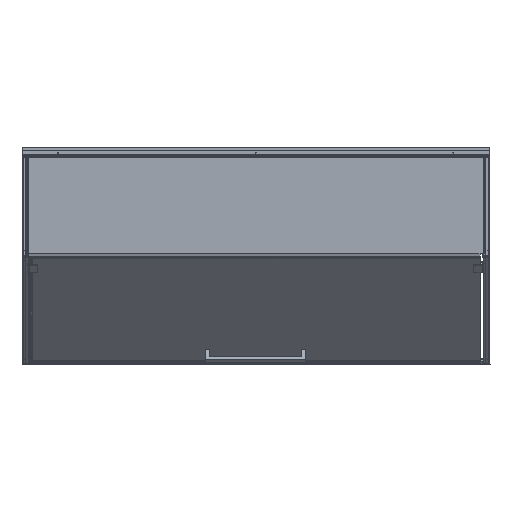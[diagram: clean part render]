
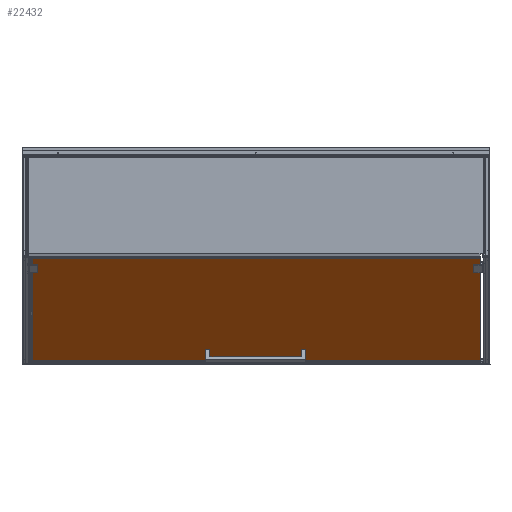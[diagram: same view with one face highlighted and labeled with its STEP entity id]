
A CAD part, front view. The second image highlights one B-rep face of the part: STEP entity #22432.
In plain terms, the highlighted planar face has unit normal (0, -0.707, -0.707) as drawn and (0, 1, 0) by its records, which use the part's own axes.
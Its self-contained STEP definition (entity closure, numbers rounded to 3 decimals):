
#22089=DIRECTION('',(0.,0.,1.));
#22090=VECTOR('',#22089,1876.);
#22091=CARTESIAN_POINT('',(-306.,8.,-938.));
#22092=LINE('',#22091,#22090);
#22093=DIRECTION('',(-1.,0.,0.));
#22094=VECTOR('',#22093,612.);
#22095=CARTESIAN_POINT('',(306.,8.,-938.));
#22096=LINE('',#22095,#22094);
#22097=DIRECTION('',(0.,0.,-1.));
#22098=VECTOR('',#22097,1876.);
#22099=CARTESIAN_POINT('',(306.,8.,938.));
#22100=LINE('',#22099,#22098);
#22101=DIRECTION('',(1.,0.,0.));
#22102=VECTOR('',#22101,612.);
#22103=CARTESIAN_POINT('',(-306.,8.,938.));
#22104=LINE('',#22103,#22102);
#22105=CARTESIAN_POINT('',(-259.,8.,-921.));
#22106=DIRECTION('',(0.,1.,0.));
#22107=DIRECTION('',(1.,0.,0.));
#22108=AXIS2_PLACEMENT_3D('',#22105,#22106,#22107);
#22110=CARTESIAN_POINT('',(-259.,8.,-921.));
#22111=DIRECTION('',(0.,1.,0.));
#22112=DIRECTION('',(-1.,0.,0.));
#22113=AXIS2_PLACEMENT_3D('',#22110,#22111,#22112);
#22115=CARTESIAN_POINT('',(-233.,8.,-921.));
#22116=DIRECTION('',(0.,1.,0.));
#22117=DIRECTION('',(1.,0.,0.));
#22118=AXIS2_PLACEMENT_3D('',#22115,#22116,#22117);
#22120=CARTESIAN_POINT('',(-233.,8.,-921.));
#22121=DIRECTION('',(0.,1.,0.));
#22122=DIRECTION('',(-1.,0.,0.));
#22123=AXIS2_PLACEMENT_3D('',#22120,#22121,#22122);
#22125=CARTESIAN_POINT('',(-259.,8.,921.));
#22126=DIRECTION('',(0.,-1.,0.));
#22127=DIRECTION('',(1.,0.,0.));
#22128=AXIS2_PLACEMENT_3D('',#22125,#22126,#22127);
#22130=CARTESIAN_POINT('',(-259.,8.,921.));
#22131=DIRECTION('',(0.,-1.,0.));
#22132=DIRECTION('',(-1.,0.,0.));
#22133=AXIS2_PLACEMENT_3D('',#22130,#22131,#22132);
#22135=CARTESIAN_POINT('',(-233.,8.,921.));
#22136=DIRECTION('',(0.,-1.,0.));
#22137=DIRECTION('',(1.,0.,0.));
#22138=AXIS2_PLACEMENT_3D('',#22135,#22136,#22137);
#22140=CARTESIAN_POINT('',(-233.,8.,921.));
#22141=DIRECTION('',(0.,-1.,0.));
#22142=DIRECTION('',(-1.,0.,0.));
#22143=AXIS2_PLACEMENT_3D('',#22140,#22141,#22142);
#22145=CARTESIAN_POINT('',(246.,8.,-200.5));
#22146=DIRECTION('',(0.,1.,0.));
#22147=DIRECTION('',(1.,0.,0.));
#22148=AXIS2_PLACEMENT_3D('',#22145,#22146,#22147);
#22150=CARTESIAN_POINT('',(246.,8.,-200.5));
#22151=DIRECTION('',(0.,1.,0.));
#22152=DIRECTION('',(-1.,0.,0.));
#22153=AXIS2_PLACEMENT_3D('',#22150,#22151,#22152);
#22155=CARTESIAN_POINT('',(246.,8.,200.5));
#22156=DIRECTION('',(0.,1.,0.));
#22157=DIRECTION('',(1.,0.,0.));
#22158=AXIS2_PLACEMENT_3D('',#22155,#22156,#22157);
#22160=CARTESIAN_POINT('',(246.,8.,200.5));
#22161=DIRECTION('',(0.,1.,0.));
#22162=DIRECTION('',(-1.,0.,0.));
#22163=AXIS2_PLACEMENT_3D('',#22160,#22161,#22162);
#22221=CARTESIAN_POINT('',(-306.,8.,-938.));
#22222=CARTESIAN_POINT('',(-306.,8.,938.));
#22223=VERTEX_POINT('',#22221);
#22224=VERTEX_POINT('',#22222);
#22225=CARTESIAN_POINT('',(306.,8.,938.));
#22226=VERTEX_POINT('',#22225);
#22227=CARTESIAN_POINT('',(306.,8.,-938.));
#22228=VERTEX_POINT('',#22227);
#22233=CARTESIAN_POINT('',(-253.,8.,-921.));
#22234=CARTESIAN_POINT('',(-265.,8.,-921.));
#22235=VERTEX_POINT('',#22233);
#22236=VERTEX_POINT('',#22234);
#22238=CARTESIAN_POINT('',(-253.,8.,921.));
#22240=VERTEX_POINT('',#22238);
#22242=CARTESIAN_POINT('',(-265.,8.,921.));
#22244=VERTEX_POINT('',#22242);
#22249=CARTESIAN_POINT('',(-227.,8.,-921.));
#22250=CARTESIAN_POINT('',(-239.,8.,-921.));
#22251=VERTEX_POINT('',#22249);
#22252=VERTEX_POINT('',#22250);
#22257=CARTESIAN_POINT('',(-227.,8.,921.));
#22258=CARTESIAN_POINT('',(-239.,8.,921.));
#22259=VERTEX_POINT('',#22257);
#22260=VERTEX_POINT('',#22258);
#22269=CARTESIAN_POINT('',(251.,8.,-200.5));
#22270=CARTESIAN_POINT('',(241.,8.,-200.5));
#22271=VERTEX_POINT('',#22269);
#22272=VERTEX_POINT('',#22270);
#22273=CARTESIAN_POINT('',(251.,8.,200.5));
#22274=CARTESIAN_POINT('',(241.,8.,200.5));
#22275=VERTEX_POINT('',#22273);
#22276=VERTEX_POINT('',#22274);
#22385=CARTESIAN_POINT('',(0.,8.,0.));
#22386=DIRECTION('',(0.,1.,0.));
#22387=DIRECTION('',(1.,0.,0.));
#22388=AXIS2_PLACEMENT_3D('',#22385,#22386,#22387);
#22389=PLANE('',#22388);
#22390=ORIENTED_EDGE('',*,*,#22337,.F.);
#22391=ORIENTED_EDGE('',*,*,#22352,.F.);
#22392=ORIENTED_EDGE('',*,*,#22366,.F.);
#22393=ORIENTED_EDGE('',*,*,#22379,.F.);
#22394=EDGE_LOOP('',(#22390,#22391,#22392,#22393));
#22395=FACE_OUTER_BOUND('',#22394,.F.);
#22397=ORIENTED_EDGE('',*,*,#22396,.T.);
#22399=ORIENTED_EDGE('',*,*,#22398,.T.);
#22400=EDGE_LOOP('',(#22397,#22399));
#22401=FACE_BOUND('',#22400,.F.);
#22403=ORIENTED_EDGE('',*,*,#22402,.T.);
#22405=ORIENTED_EDGE('',*,*,#22404,.T.);
#22406=EDGE_LOOP('',(#22403,#22405));
#22407=FACE_BOUND('',#22406,.F.);
#22409=ORIENTED_EDGE('',*,*,#22408,.F.);
#22411=ORIENTED_EDGE('',*,*,#22410,.F.);
#22412=EDGE_LOOP('',(#22409,#22411));
#22413=FACE_BOUND('',#22412,.F.);
#22415=ORIENTED_EDGE('',*,*,#22414,.F.);
#22417=ORIENTED_EDGE('',*,*,#22416,.F.);
#22418=EDGE_LOOP('',(#22415,#22417));
#22419=FACE_BOUND('',#22418,.F.);
#22421=ORIENTED_EDGE('',*,*,#22420,.T.);
#22423=ORIENTED_EDGE('',*,*,#22422,.T.);
#22424=EDGE_LOOP('',(#22421,#22423));
#22425=FACE_BOUND('',#22424,.F.);
#22427=ORIENTED_EDGE('',*,*,#22426,.T.);
#22429=ORIENTED_EDGE('',*,*,#22428,.T.);
#22430=EDGE_LOOP('',(#22427,#22429));
#22431=FACE_BOUND('',#22430,.F.);
#22432=ADVANCED_FACE('',(#22395,#22401,#22407,#22413,#22419,#22425,#22431),
#22389,.T.);
#22109=CIRCLE('',#22108,6.);
#22114=CIRCLE('',#22113,6.);
#22119=CIRCLE('',#22118,6.);
#22124=CIRCLE('',#22123,6.);
#22129=CIRCLE('',#22128,6.);
#22134=CIRCLE('',#22133,6.);
#22139=CIRCLE('',#22138,6.);
#22144=CIRCLE('',#22143,6.);
#22149=CIRCLE('',#22148,5.);
#22154=CIRCLE('',#22153,5.);
#22159=CIRCLE('',#22158,5.);
#22164=CIRCLE('',#22163,5.);
#22337=EDGE_CURVE('',#22223,#22224,#22092,.T.);
#22352=EDGE_CURVE('',#22228,#22223,#22096,.T.);
#22366=EDGE_CURVE('',#22226,#22228,#22100,.T.);
#22379=EDGE_CURVE('',#22224,#22226,#22104,.T.);
#22396=EDGE_CURVE('',#22235,#22236,#22109,.T.);
#22398=EDGE_CURVE('',#22236,#22235,#22114,.T.);
#22402=EDGE_CURVE('',#22251,#22252,#22119,.T.);
#22404=EDGE_CURVE('',#22252,#22251,#22124,.T.);
#22408=EDGE_CURVE('',#22240,#22244,#22129,.T.);
#22410=EDGE_CURVE('',#22244,#22240,#22134,.T.);
#22414=EDGE_CURVE('',#22259,#22260,#22139,.T.);
#22416=EDGE_CURVE('',#22260,#22259,#22144,.T.);
#22420=EDGE_CURVE('',#22271,#22272,#22149,.T.);
#22422=EDGE_CURVE('',#22272,#22271,#22154,.T.);
#22426=EDGE_CURVE('',#22275,#22276,#22159,.T.);
#22428=EDGE_CURVE('',#22276,#22275,#22164,.T.);
